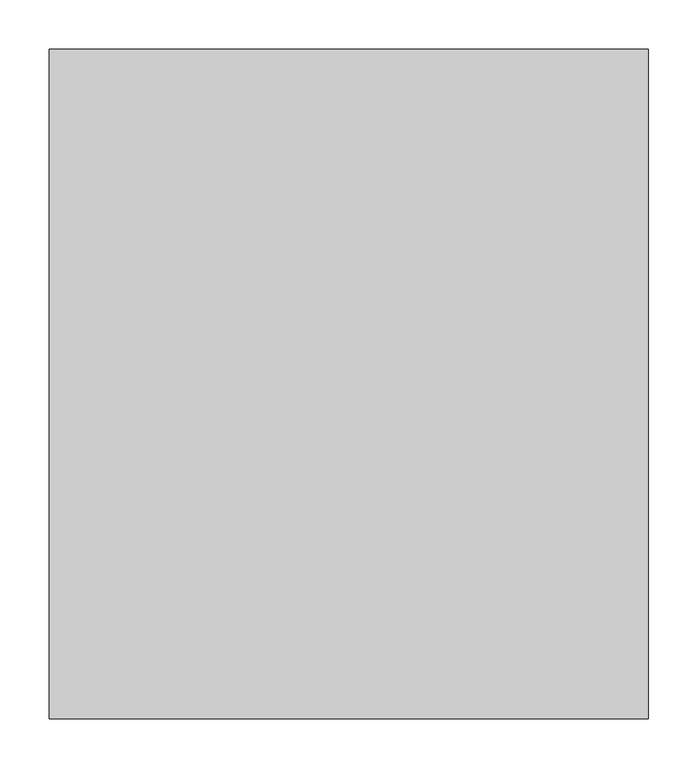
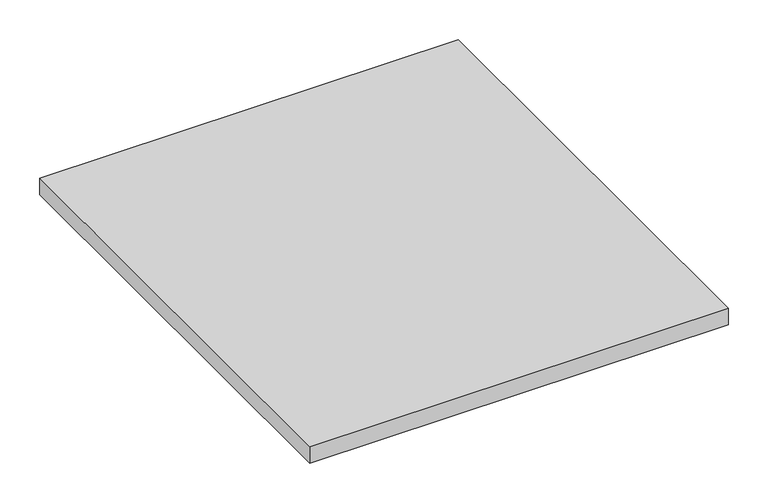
"""IFC4 building model written with IfcOpenShell, lengths in millimetres: proxy geometry, BASYS^CREDENZA 1_INTERNAL DETAILS-RT END DOOR."""

from ifc_helpers import new_model, si_unit, frame, origin, place, context, project, spatial, polyline, outline, extrude, source, transform, mapped, element, save


def generic_models_2541da5b(model_context):
    return source(origin(), model_context, "Body", "SweptSolid", [
        extrude(outline(polyline([(2436.0520875, -687.55), (1829.42865, -687.55), (1829.42865, -9.525), (2436.0520875, -9.525), (2436.0520875, -687.55)])), frame((0.0, 0.0, -25.4), z_axis=(0.0, 0.0, 1.0), x_axis=(1.0, 0.0, 0.0)), (0.0, 0.0, 1.0), 25.4),
    ])


if __name__ == "__main__":
    model = new_model("IFC4")
    model_context = context("Model", 3, world=origin())
    ifc_project = project(units=[si_unit("LENGTHUNIT", "METRE", prefix="MILLI")], contexts=[model_context])
    site = spatial("IfcSite", under=ifc_project)
    building = spatial("IfcBuilding", under=site)
    placement = place(None, origin())
    generic_models_shape = generic_models_2541da5b(model_context)
    element("IfcBuildingElementProxy", 1, Name="BASYS^CREDENZA 1_INTERNAL DETAILS-RT END DOOR", ObjectType="BASYS^CREDENZA 1_INTERNAL DETAILS-RT END DOOR", at=placement, inside=building, context=model_context, shape_type="MappedRepresentation", body=[
        mapped(generic_models_shape, transform((0.0, 0.0, 0.0), x_axis=(1.0, 0.0, 0.0), y_axis=(0.0, 1.0, 0.0), z_axis=(0.0, 0.0, 1.0))),
    ])
    save(model, "model.ifc")
